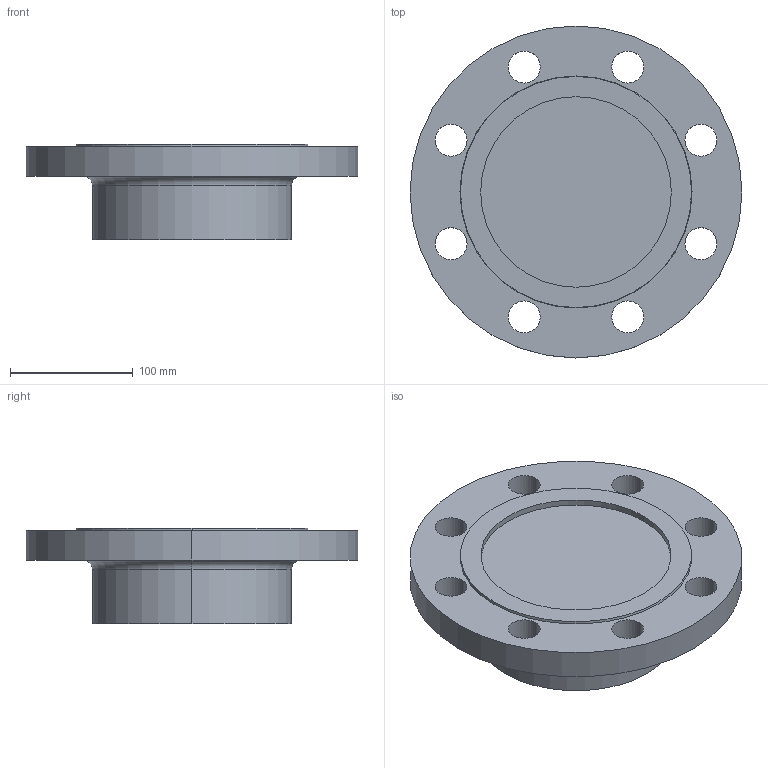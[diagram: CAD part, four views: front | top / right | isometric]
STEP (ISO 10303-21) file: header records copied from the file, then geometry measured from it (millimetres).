
FILE_DESCRIPTION (( 'STEP AP214' ), '1' );
FILE_NAME ('PN40 DN125 Type 21(i) - Type G Face.STEP', '2019-01-02T01:21:11', ( '' ), ( '' ), 'SwSTEP 2.0', 'SolidWorks 2019', '' );
FILE_SCHEMA (( 'AUTOMOTIVE_DESIGN' ));
Length unit declared in the file: millimetre
Products named in the file (1): PN40 DN125 Type 21(i) - Type G Face
Bounding box: 270 x 270 x 78 mm (x, y, z)
Volume: 2312542.7 mm3; surface area: 170230 mm2
Topology: 1 solids, 1 shells, 31 faces, 76 edges, 50 vertices
Faces by surface type: cylinder 22, plane 5, torus 2, cone 2
Entity records: 1012 total; most frequent: DIRECTION 192, CARTESIAN_POINT 158, ORIENTED_EDGE 152, AXIS2_PLACEMENT_3D 84, EDGE_CURVE 76, CIRCLE 52, EDGE_LOOP 50, VERTEX_POINT 50
